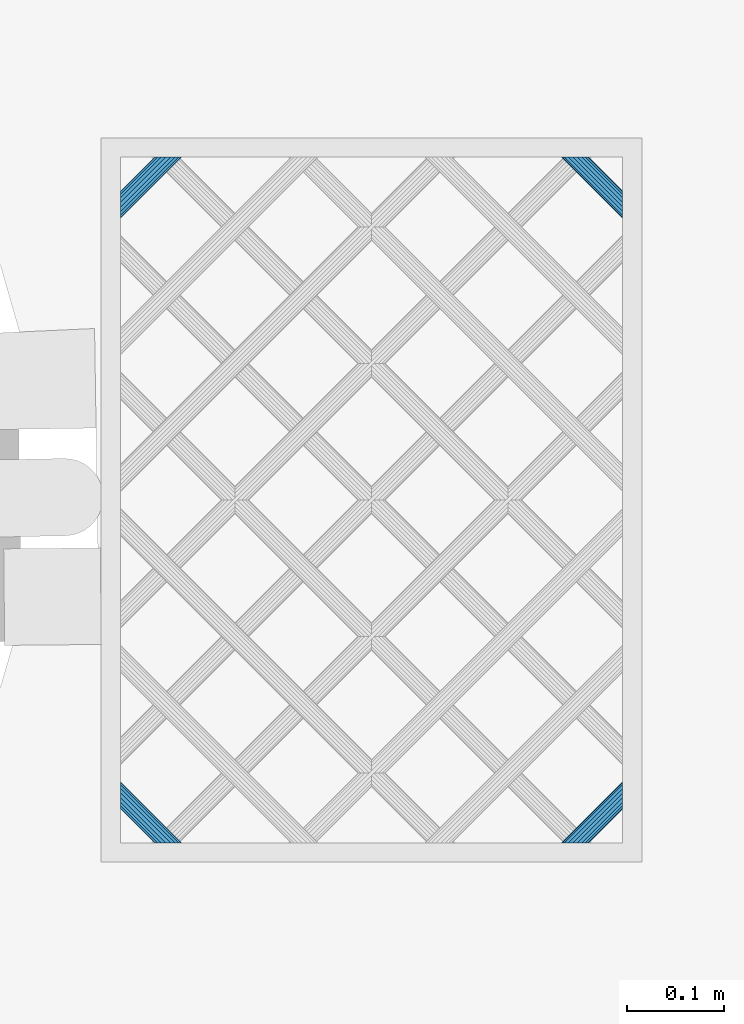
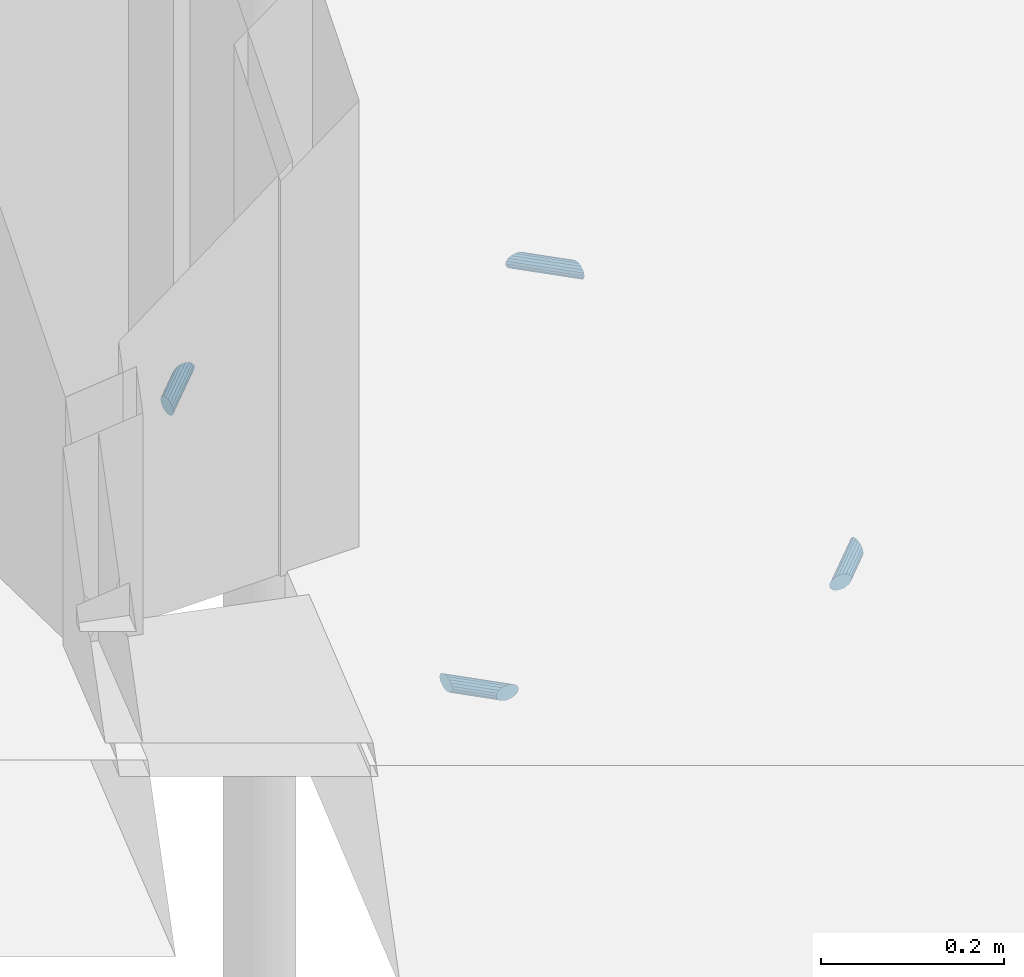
# One storey, part 83 of 133: 4 members, 1 element without a shape of its own.
"""IFC2X3 building model written with IfcOpenShell, lengths in centimetres."""

from ifc_helpers import new_model, entity, si_unit, converted_unit, direction, frame, origin, origin_with_axes, place, context, subcontext, project, spatial, faceted_brep, material, type_object, element, aggregate, save


model = new_model("IFC2X3")

# Units and contexts
model_context = context("Model", 3, precision=0.0001, world=origin(), true_north=direction((0.225632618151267, 0.974212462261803, 0.0)))
body_context = subcontext(model_context, "Body", "Model", "MODEL_VIEW")
ifc_project = project(units=[si_unit("LENGTHUNIT", "METRE", prefix="CENTI"), si_unit("AREAUNIT", "SQUARE_METRE", prefix="CENTI"), si_unit("VOLUMEUNIT", "CUBIC_METRE", prefix="CENTI"), converted_unit("PLANEANGLEUNIT", "DEGREE", entity("IfcRatioMeasure", 0.0174532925), si_unit("PLANEANGLEUNIT", "RADIAN"), dimensions=[0, 0, 0, 0, 0, 0, 0])], contexts=[model_context])

# Site, building, storey
site_placement = place(None, origin_with_axes())
site = spatial("IfcSite", under=ifc_project, at=site_placement, Name="Default Site", CompositionType="ELEMENT")
building_placement = place(site_placement, origin_with_axes())
building = spatial("IfcBuilding", under=site, at=building_placement, Name="Default Building", CompositionType="ELEMENT")
storey_placement = place(building_placement, frame((0.0, 0.0, -291.400371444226), z_axis=(0.0, 0.0, 1.0), x_axis=(1.0, 0.0, 0.0)))
storey = spatial("IfcBuildingStorey", under=building, at=storey_placement, Name="Rez-de-Jardin", CompositionType="ELEMENT", Elevation=-291.400371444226)

# Assembly, members
building_element_proxy_type = type_object("IfcBuildingElementProxyType", Name="Type Object", PredefinedType="NOTDEFINED")
assembly_placement = place(storey_placement, frame((1661.43547545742, -586.48555921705, 97.0), z_axis=(0.0, 1.0, -2.38697950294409e-15), x_axis=(1.0, 0.0, 0.0)))
assembly = element("IfcElementAssembly", 1, at=assembly_placement, inside=storey, type_object=building_element_proxy_type, Name="Panneau 294972", ObjectType="Precast panel", PredefinedType="USERDEFINED")
ifc_material = material(Name="Aluminium satiné")
member_1_placement = place(assembly_placement, frame((8.26038345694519, 0.342020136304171, 73.0000019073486), z_axis=(1.16937634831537e-15, -1.43218776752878e-15, 1.0), x_axis=(0.632455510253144, -0.774596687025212, -1.84894641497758e-15)))
member_1 = element("IfcMember", 2, at=member_1_placement, material=ifc_material, Name="4294967001", context=body_context, shape_type="Brep", body=[
    faceted_brep([(-2.08166817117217e-15, -2.44249065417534e-13, 4.44089209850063e-14), (-0.388289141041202, -2.44249065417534e-13, 4.36909951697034e-14), (-0.799165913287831, -0.150249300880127, 4.29313060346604e-14), (-1.18307196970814, -0.432624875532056, 4.22214843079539e-14), (-1.49370326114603, -0.81306897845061, 4.164714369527e-14), (-1.69359292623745, -1.24569426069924, 4.12775584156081e-14), (-1.75863096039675, -1.67831921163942, 4.11573065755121e-14), (-1.68097311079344, -2.05876331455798, 4.1300891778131e-14), (-1.46998602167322, -2.34113928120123, 4.16909956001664e-14), (-1.15111778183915, -2.49138835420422, 4.22805658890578e-14), (-0.762828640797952, -2.49138835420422, 4.29984917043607e-14), (-0.351952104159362, -2.34113934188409, 4.3758180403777e-14), (0.0319544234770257, -2.05876319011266, 4.44680030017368e-14), (0.342585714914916, -1.6783190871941, 4.50423436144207e-14), (0.542474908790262, -1.24569438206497, 4.54119280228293e-14), (0.607513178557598, -0.813069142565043, 4.5532180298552e-14), (0.529855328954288, -0.432625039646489, 4.53885950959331e-14), (0.318868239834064, -0.15024907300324, 4.49984912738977e-14), (-3.69448637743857, -5.06558483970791, -6.34567141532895), (-3.42955871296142, -5.28189735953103, -6.26038312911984), (-3.19658521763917, -5.47211941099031, -6.01481199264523), (-3.02366596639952, -5.61330738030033, -5.63856363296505), (-2.93165753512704, -5.68843194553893, -5.17703294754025), (-2.93165753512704, -5.68843194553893, -4.68588471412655), (-3.02366596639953, -5.61330738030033, -4.22435402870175), (-3.19658521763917, -5.47211941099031, -3.84811162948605), (-3.42955871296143, -5.28189735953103, -3.60253453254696), (-3.69448637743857, -5.06558483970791, -3.51724624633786), (-3.95941404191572, -4.84927231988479, -3.60253453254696), (-4.19238753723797, -4.65905026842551, -3.84811162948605), (-4.36530678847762, -4.51786229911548, -4.22435402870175), (-4.4573152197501, -4.44273773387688, -4.68588471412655), (-4.4573152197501, -4.44273773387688, -5.17703294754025), (-4.36530678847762, -4.51786229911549, -5.63856363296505), (-4.19238753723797, -4.65905026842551, -6.01481199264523), (-3.95941404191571, -4.84927231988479, -6.26038312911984), (0.318868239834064, -0.15024907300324, 4.44089209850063e-14), (0.529855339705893, -0.43262503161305, -1.30225434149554e-08), (-3.42955855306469, -5.28189724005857, -6.26038332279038), (-3.6944865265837, -5.06558495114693, -6.34567123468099), (0.529855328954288, -0.432625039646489, 4.44089209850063e-14), (0.607513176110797, -0.813069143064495, 1.93441038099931e-09), (-3.19658716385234, -5.4721198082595, -6.01481045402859), (-3.42955853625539, -5.28189732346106, -6.26038326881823), (0.607513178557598, -0.813069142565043, 4.44089209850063e-14), (0.542475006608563, -1.24569439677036, -5.04749368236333e-08), (-3.02366571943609, -5.61330741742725, -5.63856376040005), (-3.1965868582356, -5.47211916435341, -6.0148111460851), (0.542474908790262, -1.24569438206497, 4.44089209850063e-14), (0.342585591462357, -1.67831903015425, 3.3895409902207e-08), (-2.93165757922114, -5.68843192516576, -5.17703293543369), (-3.02366588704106, -5.61330741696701, -5.63856365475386), (0.342585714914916, -1.6783190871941, 4.44089209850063e-14), (0.0319544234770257, -2.05876319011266, 4.44089209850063e-14), (-0.351952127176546, -2.34113931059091, -9.68220735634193e-09), (-3.02366552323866, -5.61330798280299, -4.22435384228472), (-2.93165717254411, -5.68843243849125, -4.68588456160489), (-0.351952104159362, -2.34113934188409, 4.44089209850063e-14), (-0.762828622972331, -2.49138840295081, 2.64850749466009e-08), (-3.19658457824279, -5.47212115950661, -3.84811067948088), (-3.02366550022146, -5.61330865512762, -4.22435333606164), (-0.762828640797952, -2.49138835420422, 4.44089209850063e-14), (-1.15111778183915, -2.49138835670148, 1.93441027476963e-09), (-3.42955871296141, -5.28189880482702, -3.60253341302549), (-3.19658521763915, -5.47212157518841, -3.84810995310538), (-1.15111778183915, -2.49138835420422, 4.44089209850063e-14), (-1.46998601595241, -2.34113926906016, -1.30225444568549e-08), (-3.69448684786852, -5.06558583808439, -3.51724517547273), (-3.42955934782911, -5.28189870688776, -3.60253308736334), (-1.46998602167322, -2.34113928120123, 4.44089209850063e-14), (-1.68097312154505, -2.05876332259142, 1.30226325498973e-08), (-3.95941524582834, -4.84927321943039, -3.60253307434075), (-3.69448727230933, -5.06558550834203, -3.51724516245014), (-1.68097311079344, -2.05876331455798, 4.44089209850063e-14), (-1.75863095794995, -1.67831921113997, -1.93432166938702e-09), (-4.19238965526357, -4.65905070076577, -3.84810995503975), (-3.95941545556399, -4.8492726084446, -3.60253341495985), (-1.75863096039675, -1.67831921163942, 4.44089209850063e-14), (-1.69359287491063, -1.2456942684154, -2.64849863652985e-08), (-4.36530807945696, -4.51786210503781, -4.22435336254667), (-4.19238932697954, -4.65904999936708, -3.84811070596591), (-1.69359292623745, -1.24569426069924, 4.44089209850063e-14), (-1.49370329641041, -0.813068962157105, 9.68229621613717e-09), (-4.45731581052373, -4.44273746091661, -4.68588455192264), (-4.36530750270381, -4.51786196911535, -4.22435383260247), (-1.49370326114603, -0.81306897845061, 4.44089209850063e-14), (-1.18307196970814, -0.432624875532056, 4.44089209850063e-14), (-0.799165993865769, -0.150249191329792, -3.38953211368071e-08), (-4.36530692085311, -4.51786211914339, -5.63856368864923), (-4.45731527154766, -4.44273766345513, -5.17703296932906), (-0.799165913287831, -0.150249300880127, 4.44089209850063e-14), (-0.388289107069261, -9.29011361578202e-08, 5.04750258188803e-08), (-4.19238693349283, -4.65905191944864, -6.01481109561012), (-4.36530684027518, -4.51786215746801, -5.63856370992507), (-0.388289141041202, -2.44249065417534e-13, 4.44089209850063e-14), (-2.10736565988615e-15, 2.49701120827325e-09, -1.93432137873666e-09), (-3.95941404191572, -4.84927213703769, -6.26038327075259), (-4.19238753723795, -4.65905225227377, -6.01481045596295), (0.318868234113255, -0.150249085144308, 1.30226327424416e-08), (-3.69448646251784, -5.06558502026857, -6.3456712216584), (-3.95941396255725, -4.8492721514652, -6.26038330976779)], [[[0, 1, 2, 3, 4, 5, 6, 7, 8, 9, 10, 11, 12, 13, 14, 15, 16, 17]], [[18, 19, 20, 21, 22, 23, 24, 25, 26, 27, 28, 29, 30, 31, 32, 33, 34, 35]], [[36, 37, 38, 39]], [[40, 41, 42, 43]], [[44, 45, 46, 47]], [[48, 49, 50, 51]], [[52, 53, 23, 22]], [[53, 54, 55, 56]], [[57, 58, 59, 60]], [[61, 62, 63, 64]], [[65, 66, 67, 68]], [[69, 70, 71, 72]], [[73, 74, 75, 76]], [[77, 78, 79, 80]], [[81, 82, 83, 84]], [[85, 86, 32, 31]], [[86, 87, 88, 89]], [[90, 91, 92, 93]], [[94, 95, 96, 97]], [[0, 98, 99, 100]]]),
])
member_2_placement = place(assembly_placement, frame((54.000002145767, 0.342020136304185, 5.60253150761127), z_axis=(0.999999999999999, 0.0, 0.0), x_axis=(0.0, -0.774596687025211, -0.632455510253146)))
member_2 = element("IfcMember", 3, at=member_2_placement, material=ifc_material, Name="4294966993", context=body_context, shape_type="Brep", body=[
    faceted_brep([(2.35922392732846e-14, 3.81639164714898e-14, -3.33066907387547e-13), (-0.388289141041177, 3.88578058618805e-14, -3.33066907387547e-13), (-0.799165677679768, -0.150249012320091, -3.33066907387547e-13), (-1.18307220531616, -0.432625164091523, -3.33066907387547e-13), (-1.49370349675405, -0.813069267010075, -3.33066907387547e-13), (-1.69359269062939, -1.24569397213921, -3.33066907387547e-13), (-1.75863096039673, -1.67831921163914, -3.33066907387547e-13), (-1.68097311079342, -2.05876331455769, -3.33066907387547e-13), (-1.4699860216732, -2.34113928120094, -3.33066907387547e-13), (-1.15111778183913, -2.49138835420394, -3.33066907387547e-13), (-0.762828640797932, -2.49138835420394, -3.33066907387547e-13), (-0.351951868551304, -2.34113905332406, -3.33066907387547e-13), (0.0319541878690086, -2.05876347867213, -3.33066907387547e-13), (0.342585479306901, -1.67831937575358, -3.33066907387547e-13), (0.542475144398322, -1.24569409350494, -3.33066907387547e-13), (0.607513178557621, -0.813069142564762, -3.33066907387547e-13), (0.529855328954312, -0.432625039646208, -3.33066907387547e-13), (0.318868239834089, -0.150249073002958, -3.33066907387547e-13), (2.54336859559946, 2.57419648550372, -3.51724624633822), (2.8082962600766, 2.35788396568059, -3.60253453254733), (3.04126975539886, 2.16766191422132, -3.84811162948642), (3.2141890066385, 2.02647394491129, -4.22435402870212), (3.30619743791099, 1.95134937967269, -4.68588471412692), (3.30619743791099, 1.95134937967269, -5.17703592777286), (3.2141890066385, 2.02647394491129, -5.63856661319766), (3.04126975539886, 2.16766191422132, -6.01480901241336), (2.8082962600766, 2.35788396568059, -6.26038610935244), (2.54336859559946, 2.57419648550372, -6.34567439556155), (2.27844093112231, 2.79050900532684, -6.26038610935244), (2.04546743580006, 2.98073105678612, -6.01480901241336), (1.87254818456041, 3.12191902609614, -5.63856661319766), (1.78053975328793, 3.19704359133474, -5.17703592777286), (1.78053975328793, 3.19704359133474, -4.68588471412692), (1.87254818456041, 3.12191902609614, -4.22435402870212), (2.04546743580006, 2.98073105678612, -3.84811162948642), (2.27844093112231, 2.79050900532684, -3.60253453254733), (0.529855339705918, -0.432625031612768, 1.30222552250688e-08), (2.80829746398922, 2.35788486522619, -3.60253307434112), (2.54336949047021, 2.57419715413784, -3.51724516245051), (0.60751317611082, -0.813069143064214, -1.93469909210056e-09), (3.04127187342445, 2.16766234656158, -3.84810995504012), (2.80829767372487, 2.35788425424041, -3.60253341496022), (0.542475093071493, -1.24569408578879, -2.64853636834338e-08), (3.21419029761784, 2.02647375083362, -4.22435336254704), (3.04127154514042, 2.16766164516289, -3.84811070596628), (0.342585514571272, -1.67831939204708, 9.68191861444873e-09), (3.30619802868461, 1.95134910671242, -4.68588455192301), (3.21418972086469, 2.02647361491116, -4.22435383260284), (0.0319541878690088, -2.05876347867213, -3.33066907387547e-13), (-0.351951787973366, -2.34113916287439, -3.38956988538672e-08), (3.21418872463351, 2.02647432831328, -5.63856649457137), (3.30619707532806, 1.95134987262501, -5.17703577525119), (-0.762828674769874, -2.49138826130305, 5.04746487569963e-08), (3.04126956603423, 2.16766243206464, -6.01480873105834), (3.21418864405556, 2.02647493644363, -5.63856607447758), (-1.15111778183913, -2.49138835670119, -1.9346991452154e-09), (2.80829626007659, 2.35788522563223, -6.26038513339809), (3.04126975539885, 2.16766245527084, -6.01480859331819), (-1.46998601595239, -2.34113926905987, 1.30222553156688e-08), (2.5433693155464, 2.5741980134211, -6.34567275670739), (2.80829681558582, 2.35788514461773, -6.26038484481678), (-1.68097312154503, -2.05876332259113, -1.30229219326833e-08), (2.27844196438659, 2.79050977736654, -6.26038485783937), (2.54336993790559, 2.57419748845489, -6.34567276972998), (-1.75863095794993, -1.67831921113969, 1.93403301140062e-09), (2.04546796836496, 2.9807311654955, -6.01480859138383), (2.27844216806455, 2.79050925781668, -6.26038513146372), (-1.69359278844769, -1.24569395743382, -5.04753141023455e-08), (1.87254913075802, 3.12191888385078, -5.63856612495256), (2.04546788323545, 2.98073098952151, -6.01480878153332), (-1.49370337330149, -0.813069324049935, 3.38950325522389e-08), (1.78054043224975, 3.19704327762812, -5.17703574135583), (1.87254874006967, 3.12191876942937, -5.638566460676), (-1.18307220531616, -0.432625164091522, -3.33066907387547e-13), (1.78053975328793, 3.19704359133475, -4.68588471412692), (1.78053975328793, 3.19704359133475, -5.17703592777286), (-0.799165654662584, -0.150249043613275, -9.6825846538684e-09), (1.87254774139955, 3.1219196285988, -4.22435384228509), (1.780539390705, 3.19704408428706, -4.68588456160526), (-0.388289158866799, 4.87466234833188e-08, 2.64846974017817e-08), (2.04546679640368, 2.98073280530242, -3.84811067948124), (1.87254771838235, 3.12192030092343, -4.22435333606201), (2.35665417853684e-14, 2.49729379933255e-09, 1.93403285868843e-09), (2.2784409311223, 2.79051045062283, -3.60253341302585), (2.04546743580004, 2.98073322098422, -3.84810995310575), (0.31886823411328, -0.150249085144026, -1.30229214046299e-08), (2.54336906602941, 2.5741974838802, -3.5172451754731), (2.27844156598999, 2.79051035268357, -3.60253308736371)], [[[0, 1, 2, 3, 4, 5, 6, 7, 8, 9, 10, 11, 12, 13, 14, 15, 16, 17]], [[18, 19, 20, 21, 22, 23, 24, 25, 26, 27, 28, 29, 30, 31, 32, 33, 34, 35]], [[17, 36, 37, 38]], [[16, 39, 40, 41]], [[15, 42, 43, 44]], [[14, 45, 46, 47]], [[13, 48, 23, 22]], [[12, 49, 50, 51]], [[11, 52, 53, 54]], [[10, 55, 56, 57]], [[9, 58, 59, 60]], [[8, 61, 62, 63]], [[7, 64, 65, 66]], [[6, 67, 68, 69]], [[5, 70, 71, 72]], [[4, 73, 74, 75]], [[3, 76, 77, 78]], [[2, 79, 80, 81]], [[1, 82, 83, 84]], [[0, 85, 86, 87]]]),
])
member_3_placement = place(assembly_placement, frame((54.000002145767, 0.342020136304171, 66.7396187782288), z_axis=(0.999999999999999, 0.0, 0.0), x_axis=(0.0, -0.774602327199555, -0.632448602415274)))
member_3 = element("IfcMember", 4, at=member_3_placement, material=ifc_material, Name="4294966992", context=body_context, shape_type="Brep", body=[
    faceted_brep([(0.0, 1.11022302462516e-14, -3.33066907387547e-13), (-0.388286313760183, 1.11022302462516e-14, -3.33066907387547e-13), (-0.799164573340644, -0.150256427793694, -3.33066907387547e-13), (-1.1830681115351, -0.432635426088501, -3.33066907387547e-13), (-1.49369412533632, -0.813079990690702, -3.33066907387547e-13), (-1.69357946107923, -1.24570647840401, -3.33066907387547e-13), (-1.75861293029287, -1.6783311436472, -3.33066907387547e-13), (-1.68095263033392, -2.05877570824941, -3.33066907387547e-13), (-1.46996349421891, -2.34115037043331, -3.33066907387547e-13), (-1.15109344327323, -2.49139602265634, -3.33066907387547e-13), (-0.762803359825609, -2.49139140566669, -3.33066907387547e-13), (-0.351928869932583, -2.34113959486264, -3.33066907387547e-13), (0.0319746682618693, -2.05876059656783, -3.33066907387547e-13), (0.342600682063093, -1.67831603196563, -3.33066907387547e-13), (0.542486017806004, -1.24568954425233, -3.33066907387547e-13), (0.607523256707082, -0.813060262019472, -3.33066907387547e-13), (0.529859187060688, -0.432620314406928, -3.33066907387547e-13), (0.318870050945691, -0.150245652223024, -3.33066907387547e-13), (-3.69444096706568, -5.06561749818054, -6.34567439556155), (-3.42951137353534, -5.28192765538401, -6.26038610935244), (-3.19653618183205, -5.47214762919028, -6.01480901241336), (-3.02361567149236, -5.61333405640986, -5.63856661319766), (-2.93160657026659, -5.6884578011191, -5.17703592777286), (-2.93160657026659, -5.6884578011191, -4.68588471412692), (-3.02361567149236, -5.61333405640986, -4.22435402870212), (-3.19653618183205, -5.47214762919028, -3.84811162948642), (-3.42951137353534, -5.28192765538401, -3.60253453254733), (-3.69444096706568, -5.06561749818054, -3.51724624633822), (-3.95937056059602, -4.84930734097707, -3.60253453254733), (-4.19234575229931, -4.6590873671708, -3.84811162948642), (-4.365266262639, -4.51790093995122, -4.22435402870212), (-4.45727536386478, -4.44277719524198, -4.68588471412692), (-4.45727536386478, -4.44277719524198, -5.17703592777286), (-4.365266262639, -4.51790093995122, -5.63856661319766), (-4.19234575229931, -4.6590873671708, -6.01480901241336), (-3.95937056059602, -4.84930734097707, -6.26038610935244), (0.529859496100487, -0.432620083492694, -3.74318825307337e-07), (-3.4295122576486, -5.28192831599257, -6.26038503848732), (-3.69444216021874, -5.06561838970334, -6.34567295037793), (0.607521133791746, -0.813060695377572, 1.67831469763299e-06), (-3.19653689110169, -5.47214777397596, -6.01480845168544), (-3.42951278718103, -5.28192794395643, -6.26038499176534), (0.542487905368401, -1.24568982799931, -9.73995457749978e-07), (-3.0236149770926, -5.61333416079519, -5.63856697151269), (-3.1965349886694, -5.47214780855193, -6.01480962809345), (0.342600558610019, -1.67831597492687, 3.38950341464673e-08), (-2.93160732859, -5.68845745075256, -5.17703571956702), (-3.02361630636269, -5.61333376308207, -5.63856643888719), (-2.93160657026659, -5.68845780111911, -4.68588471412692), (-2.93160657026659, -5.68845780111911, -5.17703592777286), (-0.35192878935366, -2.34113970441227, 3.38950356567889e-08), (-3.02361559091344, -5.61333416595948, -4.22435399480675), (-0.762803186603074, -2.49139187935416, 2.57364732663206e-07), (-3.19653600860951, -5.47214810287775, -3.84811137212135), (-1.15109344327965, -2.49139530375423, -5.56859523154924e-07), (-3.42951137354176, -5.2819269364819, -3.60253508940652), (-1.4699633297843, -2.34115002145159, -3.74318826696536e-07), (-3.69444080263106, -5.06561714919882, -3.51724662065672), (-1.68095293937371, -2.05877593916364, 3.74318156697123e-07), (-3.95937086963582, -4.8493075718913, -3.60253415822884), (-3.69444096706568, -5.06561749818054, -3.51724624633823), (-1.75861363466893, -1.67833128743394, 5.56858858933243e-07), (-4.19234645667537, -4.65908751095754, -3.84811107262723), (-3.95937056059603, -4.84930734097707, -3.60253453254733), (-1.69357896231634, -1.24570655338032, -2.57365400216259e-07), (-4.36526576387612, -4.51790101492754, -4.22435428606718), (-1.49369400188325, -0.813080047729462, -3.38957002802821e-08), (-4.4572752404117, -4.44277725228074, -4.68588474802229), (-4.36526626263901, -4.51790093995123, -4.22435402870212), (-0.799164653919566, -0.150256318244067, -3.38957018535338e-08), (-4.36526592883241, -4.51790139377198, -5.63856647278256), (-4.45727494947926, -4.44277775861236, -5.17703575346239), (-0.388285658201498, -1.7926647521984e-06, 9.73994790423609e-07), (-4.19234551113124, -4.65908802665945, -6.01480865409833), (-4.3652658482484, -4.51790207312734, -5.63856599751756), (-1.93447717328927e-11, 2.1666953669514e-06, -1.6783153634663e-06), (-3.95937056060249, -4.84930661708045, -6.26038667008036), (-4.1923457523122, -4.65908592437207, -6.01481013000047), (0.318869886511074, -0.150246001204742, 3.74318161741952e-07), (-3.69444176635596, -5.06561919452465, -6.34567257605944), (-3.95937119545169, -4.84930868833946, -6.26038466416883)], [[[0, 1, 2, 3, 4, 5, 6, 7, 8, 9, 10, 11, 12, 13, 14, 15, 16, 17]], [[18, 19, 20, 21, 22, 23, 24, 25, 26, 27, 28, 29, 30, 31, 32, 33, 34, 35]], [[17, 36, 37, 38]], [[16, 39, 40, 41]], [[15, 42, 43, 44]], [[14, 45, 46, 47]], [[13, 12, 48, 49]], [[12, 50, 51, 48]], [[11, 52, 53, 24]], [[10, 54, 55, 25]], [[9, 56, 57, 26]], [[8, 58, 59, 60]], [[7, 61, 62, 63]], [[6, 64, 65, 29]], [[5, 66, 67, 68]], [[4, 3, 32, 31]], [[3, 69, 70, 71]], [[2, 72, 73, 74]], [[1, 75, 76, 77]], [[0, 78, 79, 80]]]),
])
member_4_placement = place(assembly_placement, frame((5.60253150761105, 0.342020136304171, 1.99999995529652), z_axis=(1.16937634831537e-15, 1.43218776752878e-15, -1.0), x_axis=(-0.632455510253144, -0.774596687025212, -1.84894641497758e-15)))
member_4 = element("IfcMember", 5, at=member_4_placement, material=ifc_material, Name="4294966984", context=body_context, shape_type="Brep", body=[
    faceted_brep([(2.98372437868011e-14, -6.03683769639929e-14, 5.89805981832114e-15), (-0.38828914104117, -6.03683769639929e-14, 6.615985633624e-15), (-0.799165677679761, -0.150249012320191, 7.37567433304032e-15), (-1.18307220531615, -0.432625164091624, 8.08549693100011e-15), (-1.49370349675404, -0.813069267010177, 8.65983754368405e-15), (-1.69359269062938, -1.24569397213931, 9.02942195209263e-15), (-1.75863096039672, -1.67831921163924, 9.14967422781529e-15), (-1.68097311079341, -2.05876331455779, 9.00608902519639e-15), (-1.46998602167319, -2.34113928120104, 8.61598520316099e-15), (-1.15111778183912, -2.49138835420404, 8.02641491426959e-15), (-0.76282864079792, -2.49138835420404, 7.30848909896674e-15), (-0.351951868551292, -2.34113905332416, 6.54879996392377e-15), (0.0319541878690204, -2.05876347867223, 5.83897823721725e-15), (0.342585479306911, -1.67831937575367, 5.26463762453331e-15), (0.542475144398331, -1.24569409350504, 4.89505234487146e-15), (0.60751317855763, -0.813069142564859, 4.77480050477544e-15), (0.52985532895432, -0.432625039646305, 4.91838570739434e-15), (0.318868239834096, -0.150249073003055, 5.30848952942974e-15), (2.54336859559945, 2.57419648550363, -3.51724401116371), (2.8082962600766, 2.3578839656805, -3.60253155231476), (3.04126975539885, 2.16766191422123, -3.84810715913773), (3.2141890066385, 2.0264739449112, -4.22435067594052), (3.30619743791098, 1.9513493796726, -4.68588210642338), (3.30619743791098, 1.9513493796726, -5.17703332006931), (3.21418900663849, 2.0264739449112, -5.63856400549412), (3.04126975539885, 2.16766191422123, -6.01480789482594), (2.80829626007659, 2.3578839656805, -6.2603835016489), (2.54336859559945, 2.57419648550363, -6.34567104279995), (2.2784409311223, 2.79050900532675, -6.2603835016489), (2.04546743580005, 2.98073105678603, -6.01480789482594), (1.8725481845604, 3.12191902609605, -5.63856400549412), (1.78053975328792, 3.19704359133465, -5.17703332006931), (1.78053975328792, 3.19704359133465, -4.68588210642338), (1.8725481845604, 3.12191902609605, -4.22435067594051), (2.04546743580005, 2.98073105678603, -3.84810715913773), (2.27844093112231, 2.79050900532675, -3.60253155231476), (0.318868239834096, -0.150249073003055, 5.55111512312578e-15), (0.529855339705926, -0.432625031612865, 1.30225936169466e-08), (2.8082962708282, 2.35788397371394, -3.60253153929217), (0.52985532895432, -0.432625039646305, 5.20417042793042e-15), (0.607513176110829, -0.81306914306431, -1.93436108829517e-09), (3.04126975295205, 2.16766191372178, -3.84810716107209), (0.60751317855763, -0.813069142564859, 4.85722573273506e-15), (0.542475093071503, -1.24569408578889, -2.64850258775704e-08), (3.21418895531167, 2.02647395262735, -4.22435070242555), (0.542475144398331, -1.24569409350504, 4.85722573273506e-15), (0.342585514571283, -1.67831939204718, 9.68225735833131e-09), (3.30619747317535, 1.9513493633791, -4.68588209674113), (0.342585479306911, -1.67831937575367, 5.55111512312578e-15), (0.0319541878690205, -2.05876347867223, 5.89805981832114e-15), (0.0319541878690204, -2.05876347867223, 5.89805981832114e-15), (-0.351951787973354, -2.34113916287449, -3.38953590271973e-08), (3.21418908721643, 2.02647383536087, -5.63856403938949), (-0.351951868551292, -2.34113905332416, 6.59194920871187e-15), (-0.762828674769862, -2.49138826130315, 5.0474988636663e-08), (3.04126972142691, 2.16766200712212, -6.01480784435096), (-0.76282864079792, -2.49138835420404, 7.28583859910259e-15), (-1.15111778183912, -2.49138835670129, -1.9343579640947e-09), (2.80829626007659, 2.35788396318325, -6.26038350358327), (-1.15111778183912, -2.49138835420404, 8.32667268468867e-15), (-1.46998601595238, -2.34113926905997, 1.30225968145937e-08), (2.54336860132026, 2.57419649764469, -6.34567102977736), (-1.46998602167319, -2.34113928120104, 8.67361737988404e-15), (-1.68097312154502, -2.05876332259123, -1.30225791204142e-08), (2.2784409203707, 2.79050899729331, -6.26038351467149), (-1.68097311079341, -2.05876331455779, 9.0205620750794e-15), (-1.75863095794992, -1.67831921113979, 1.93437502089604e-09), (2.04546743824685, 2.98073105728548, -6.01480789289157), (-1.75863096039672, -1.67831921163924, 9.36750677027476e-15), (-1.69359278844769, -1.24569395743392, -5.04749719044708e-08), (1.8725480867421, 3.12191904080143, -5.6385640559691), (-1.69359269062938, -1.24569397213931, 9.36750677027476e-15), (-1.49370337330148, -0.813069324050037, 3.38953742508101e-08), (1.78053987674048, 3.19704353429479, -5.17703328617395), (-1.49370349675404, -0.813069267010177, 8.67361737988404e-15), (-1.18307220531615, -0.432625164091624, 8.32667268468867e-15), (-0.799165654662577, -0.150249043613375, -9.68224403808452e-09), (1.87254820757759, 3.12191899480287, -4.22435068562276), (-0.799165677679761, -0.150249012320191, 7.63278329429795e-15), (-0.388289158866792, 4.87465244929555e-08, 2.64850375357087e-08), (2.04546741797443, 2.98073110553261, -3.84810713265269), (-0.38828914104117, -6.03683769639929e-14, 6.93889390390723e-15), (2.98115462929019e-14, 2.49719559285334e-09, 1.93437207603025e-09), (2.27844093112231, 2.79050900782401, -3.60253155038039), (2.04546743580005, 2.98073105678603, -3.84810715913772), (0.318868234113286, -0.150249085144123, -1.30225832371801e-08), (2.54336858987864, 2.57419647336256, -3.5172440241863)], [[[0, 1, 2, 3, 4, 5, 6, 7, 8, 9, 10, 11, 12, 13, 14, 15, 16, 17]], [[18, 19, 20, 21, 22, 23, 24, 25, 26, 27, 28, 29, 30, 31, 32, 33, 34, 35]], [[36, 37, 38, 18]], [[39, 40, 41, 19]], [[42, 43, 44, 20]], [[45, 46, 47, 21]], [[48, 49, 23, 22]], [[50, 51, 52, 23]], [[53, 54, 55, 24]], [[56, 57, 58, 25]], [[59, 60, 61, 26]], [[62, 63, 64, 27]], [[65, 66, 67, 28]], [[68, 69, 70, 29]], [[71, 72, 73, 30]], [[74, 75, 32, 31]], [[75, 76, 77, 32]], [[78, 79, 80, 33]], [[81, 82, 83, 84]], [[0, 85, 86, 35]]]),
])
aggregate(assembly, [member_1, member_2, member_3, member_4])

save(model, "model.ifc")
